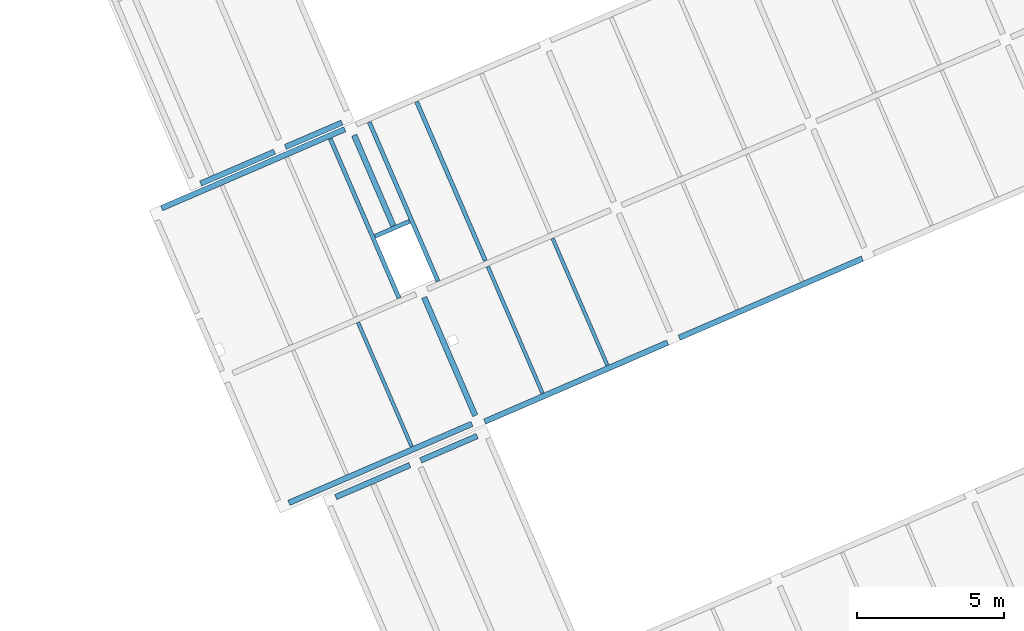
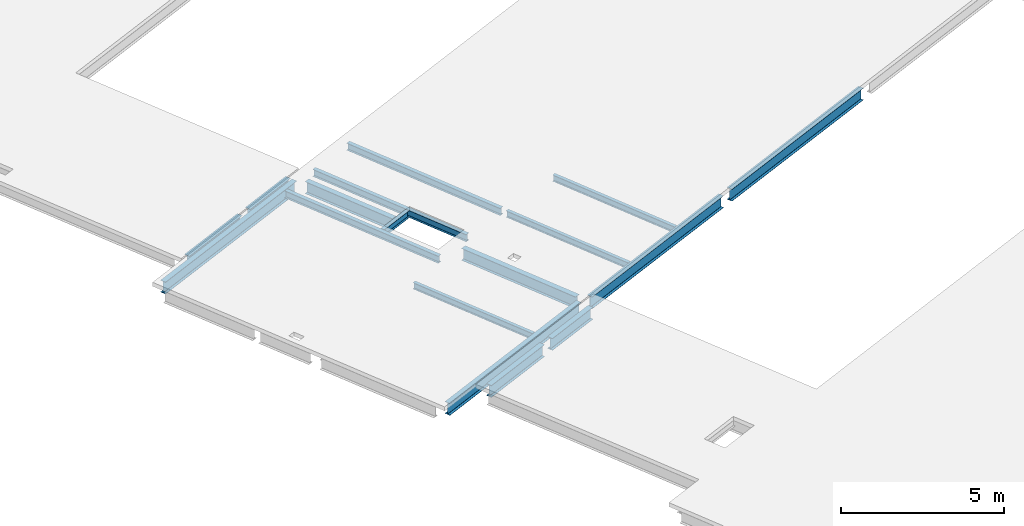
# One storey, part 3 of 15: 17 beams.
"""IFC4 building model written with IfcOpenShell, lengths in metres."""

import ifcopenshell
import ifcopenshell.guid

model = None  # the IFC model being written
_history = None  # IfcOwnerHistory: only IFC2X3 demands one
_inside = {}  # id of a spatial element -> (the spatial element, [elements in it])
_under = {}  # id of a project, library or spatial element -> (it, [spatial elements below it])
_declared = {}  # id of a project -> (the project, [libraries it declares])
_typed = {}  # id of a type object -> (the type object, [elements of that type])
_made_of = {}  # id of a material, layer set ... -> (it, [elements and type objects made of it])


def new_model(schema):
    """Start an empty IFC model of exactly this schema.

    Asked for "IFC4X3", IfcOpenShell would pick the latest addendum, in which some entities
    have other attributes; the version numbers below select the first issue.
    IFC2X3 requires an IfcOwnerHistory on every rooted entity: one is made here for all.
    """
    global model, _history
    if schema == "IFC4X3":
        model = ifcopenshell.file(schema_version=(4, 3, 0, 0))
    else:
        model = ifcopenshell.file(schema=schema)
    _inside.clear()
    _under.clear()
    _declared.clear()
    _typed.clear()
    _made_of.clear()
    _history = None
    if model.schema == "IFC2X3":
        org = make("IfcOrganization", Name="unknown")
        user = make(
            "IfcPersonAndOrganization",
            ThePerson=make("IfcPerson", FamilyName="unknown"),
            TheOrganization=org,
        )
        app = make(
            "IfcApplication",
            ApplicationDeveloper=org,
            Version="unknown",
            ApplicationFullName="unknown",
            ApplicationIdentifier="unknown",
        )
        _history = make(
            "IfcOwnerHistory",
            OwningUser=user,
            OwningApplication=app,
            ChangeAction="ADDED",
            CreationDate=0,
        )
    return model


def make(cls, **values):
    """One entity of the class cls with the attributes given. An attribute that is None is left unset."""
    return model.create_entity(
        cls, **{name: value for name, value in values.items() if value is not None}
    )


def entity(cls, *values):
    """Any entity or typed value of the class cls, its attributes in the order of the schema. None: left unset."""
    e = model.create_entity(cls)
    for i, value in enumerate(values):
        if value is not None:
            e[i] = value
    return e


def rooted(cls, **values):
    """An entity with a GlobalId (a new one), such as an element, a storey or a relation."""
    return make(cls, GlobalId=ifcopenshell.guid.new(), OwnerHistory=_history, **values)


def si_unit(unit_type, name, prefix=None):
    """IfcSIUnit, for example si_unit("LENGTHUNIT", "METRE", prefix="MILLI")."""
    return make("IfcSIUnit", UnitType=unit_type, Prefix=prefix, Name=name)


def converted_unit(unit_type, name, factor, base, dimensions=None, offset=None):
    """IfcConversionBasedUnit, such as the inch: factor (a typed value) times the base unit."""
    return make(
        "IfcConversionBasedUnit"
        if offset is None
        else "IfcConversionBasedUnitWithOffset",
        ConversionOffset=offset,
        Dimensions=None
        if dimensions is None
        else entity("IfcDimensionalExponents", *dimensions),
        UnitType=unit_type,
        Name=name,
        ConversionFactor=make(
            "IfcMeasureWithUnit", ValueComponent=factor, UnitComponent=base
        ),
    )


def derived_unit(unit_type, elements):
    """IfcDerivedUnit: a product of units, each with its exponent."""
    return make(
        "IfcDerivedUnit",
        Elements=[
            make("IfcDerivedUnitElement", Unit=unit, Exponent=power)
            for unit, power in elements
        ],
        UnitType=unit_type,
    )


def assignment(units):
    """IfcUnitAssignment: the units of a project."""
    return None if units is None else make("IfcUnitAssignment", Units=units)


def point(xyz):
    """IfcCartesianPoint."""
    return None if xyz is None else make("IfcCartesianPoint", Coordinates=xyz)


def direction(xyz):
    """IfcDirection."""
    return None if xyz is None else make("IfcDirection", DirectionRatios=xyz)


def frame(location, z_axis=None, x_axis=None):
    """IfcAxis2Placement3D, a coordinate frame: its origin and axes. An axis left out is left unset."""
    return make(
        "IfcAxis2Placement3D",
        Location=point(location),
        Axis=direction(z_axis),
        RefDirection=direction(x_axis),
    )


def origin():
    """The frame at (0, 0, 0) with its axes left unset."""
    return frame((0.0, 0.0, 0.0))


def place(relative_to, where):
    """IfcLocalPlacement: puts the frame where relative to a parent placement (None: the world)."""
    return make(
        "IfcLocalPlacement", PlacementRelTo=relative_to, RelativePlacement=where
    )


def context(
    kind, dimensions, precision=None, world=None, true_north=None, identifier=None
):
    """IfcGeometricRepresentationContext, for example the 3D "Model" context."""
    return make(
        "IfcGeometricRepresentationContext",
        ContextIdentifier=identifier,
        ContextType=kind,
        CoordinateSpaceDimension=dimensions,
        Precision=precision,
        WorldCoordinateSystem=world,
        TrueNorth=true_north,
    )


def subcontext(parent, identifier, kind, view, scale=None):
    """IfcGeometricRepresentationSubContext, for example "Body" below "Model"."""
    return make(
        "IfcGeometricRepresentationSubContext",
        ContextIdentifier=identifier,
        ContextType=kind,
        ParentContext=parent,
        TargetScale=scale,
        TargetView=view,
    )


def project(units=None, contexts=None):
    """IfcProject with its units and contexts."""
    return rooted(
        "IfcProject",
        Name="project",
        RepresentationContexts=contexts,
        UnitsInContext=assignment(units),
    )


def spatial(cls, under=None, at=None, **own):
    """A site, building, storey or space (cls), placed at a placement, below another one or the project."""
    s = rooted(cls, ObjectPlacement=at, **own)
    if under is not None:
        _under.setdefault(under.id(), (under, []))[1].append(s)
    return s


def point_list(points):
    """IfcCartesianPointList2D or 3D."""
    cls = (
        "IfcCartesianPointList2D" if len(points[0]) == 2 else "IfcCartesianPointList3D"
    )
    return make(cls, CoordList=points)


def line(*indices):
    """IfcLineIndex: a straight run through numbered points of an indexed curve."""
    return model.create_entity("IfcLineIndex", indices)


def arc(*indices):
    """IfcArcIndex: an arc through three numbered points of an indexed curve."""
    return model.create_entity("IfcArcIndex", indices)


def indexed_curve(points, segments=None, self_intersect=None):
    """IfcIndexedPolyCurve: lines and arcs through numbered points (the first is 1)."""
    return make(
        "IfcIndexedPolyCurve",
        Points=point_list(points),
        Segments=segments,
        SelfIntersect=self_intersect,
    )


def outline(outer, holes=None, kind="AREA"):
    """IfcArbitraryClosedProfileDef: a profile drawn as a closed curve; with holes, ...WithVoids."""
    if holes is None:
        return make("IfcArbitraryClosedProfileDef", ProfileType=kind, OuterCurve=outer)
    return make(
        "IfcArbitraryProfileDefWithVoids",
        ProfileType=kind,
        OuterCurve=outer,
        InnerCurves=holes,
    )


def extrude(swept, where, along, depth):
    """IfcExtrudedAreaSolid: the profile swept, set in the frame where, extruded along a direction by depth."""
    return make(
        "IfcExtrudedAreaSolid",
        SweptArea=swept,
        Position=where,
        ExtrudedDirection=direction(along),
        Depth=depth,
    )


def shape(context_of_items, identifier, shape_type, items):
    """IfcShapeRepresentation: the items that make up one representation, for example the "Body"."""
    return make(
        "IfcShapeRepresentation",
        ContextOfItems=context_of_items,
        RepresentationIdentifier=identifier,
        RepresentationType=shape_type,
        Items=items,
    )


def source(mapping_origin, context_of_items, identifier, shape_type, items):
    """IfcRepresentationMap: a shape defined once, which mapped items show again and again."""
    return make(
        "IfcRepresentationMap",
        MappingOrigin=mapping_origin,
        MappedRepresentation=shape(context_of_items, identifier, shape_type, items),
    )


def transform(
    local_origin,
    x_axis=None,
    y_axis=None,
    z_axis=None,
    scale=None,
    scale2=None,
    scale3=None,
    uniform=True,
):
    """IfcCartesianTransformationOperator3D, or its non-uniform kind. x_axis, y_axis, z_axis: its Axis1, 2, 3."""
    if uniform:
        return make(
            "IfcCartesianTransformationOperator3D",
            Axis1=direction(x_axis),
            Axis2=direction(y_axis),
            LocalOrigin=point(local_origin),
            Scale=scale,
            Axis3=direction(z_axis),
        )
    return make(
        "IfcCartesianTransformationOperator3DnonUniform",
        Axis1=direction(x_axis),
        Axis2=direction(y_axis),
        LocalOrigin=point(local_origin),
        Scale=scale,
        Axis3=direction(z_axis),
        Scale2=scale2,
        Scale3=scale3,
    )


def mapped(mapping_source, mapping_target):
    """IfcMappedItem: shows the shape of a source again, moved by a transform."""
    return make(
        "IfcMappedItem", MappingSource=mapping_source, MappingTarget=mapping_target
    )


def material(Name=None, Category=None):
    """IfcMaterial."""
    return make("IfcMaterial", Name=Name, Category=Category)


def made_of(thing, what):
    """Note that an element or type object is made of a material, layer set ...; save() writes the relation."""
    if what is not None:
        _made_of.setdefault(what.id(), (what, []))[1].append(thing)
    return thing


def type_object(cls, material=None, **own):
    """A type object (cls), such as IfcWallType, which elements share."""
    return made_of(rooted(cls, **own), material)


def type_shapes(of_type, sources):
    """Give a type object the sources (RepresentationMaps) that its elements show as mapped items."""
    of_type.RepresentationMaps = sources


def element(
    cls,
    number,
    at=None,
    inside=None,
    cuts=None,
    type_object=None,
    material=None,
    context=None,
    identifier="Body",
    shape_type=None,
    held_by="IfcProductDefinitionShape",
    body=None,
    shapes=None,
    **own,
):
    """One element of the class cls, such as IfcWall. Its Tag is "e" and its number.

    at: its placement. inside: the storey or other place that contains it. cuts: it is an
    opening in that element (IfcRelVoidsElement). A single representation is given by context,
    identifier, shape_type and body (its items); several are given by shapes. held_by: the class
    of the entity that holds the representations. save() writes the other relations.
    """
    e = rooted(cls, Tag="e%d" % number, ObjectPlacement=at, **own)
    if body is not None:
        shapes = [shape(context, identifier, shape_type, body)]
    if shapes is not None:
        e.Representation = make(held_by, Representations=shapes)
    if inside is not None:
        _inside.setdefault(inside.id(), (inside, []))[1].append(e)
    if cuts is not None:
        rooted(
            "IfcRelVoidsElement", RelatingBuildingElement=cuts, RelatedOpeningElement=e
        )
    if type_object is not None:
        _typed.setdefault(type_object.id(), (type_object, []))[1].append(e)
    return made_of(e, material)


def aggregate(whole, parts):
    """IfcRelAggregates: a whole, such as a stair, and the parts it consists of."""
    return rooted("IfcRelAggregates", RelatingObject=whole, RelatedObjects=parts)


def save(model, path):
    """Write the relations noted so far, then the file.

    IfcRelAggregates (storeys below a building ...), IfcRelContainedInSpatialStructure (elements
    in a storey), IfcRelDefinesByType, IfcRelAssociatesMaterial and IfcRelDeclares: one each for
    every whole, place, type object, material and project.
    """
    for whole, parts in _under.values():
        aggregate(whole, parts)
    for where, things in _inside.values():
        rooted(
            "IfcRelContainedInSpatialStructure",
            RelatedElements=things,
            RelatingStructure=where,
        )
    for kind, things in _typed.values():
        rooted("IfcRelDefinesByType", RelatedObjects=things, RelatingType=kind)
    for what, things in _made_of.values():
        rooted("IfcRelAssociatesMaterial", RelatedObjects=things, RelatingMaterial=what)
    for by, libraries in _declared.values():
        rooted("IfcRelDeclares", RelatingContext=by, RelatedDefinitions=libraries)
    model.write(path)


model = new_model("IFC4")

# Units and contexts
model_context = context("Model", 3, precision=1e-05, world=origin(), true_north=direction((6.12323399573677e-17, 1.0)))
body_context = subcontext(model_context, "Body", "Model", "MODEL_VIEW")
ifc_project = project(units=[si_unit("LENGTHUNIT", "METRE"), si_unit("AREAUNIT", "SQUARE_METRE"), si_unit("VOLUMEUNIT", "CUBIC_METRE"), converted_unit("PLANEANGLEUNIT", "DEGREE", entity("IfcPlaneAngleMeasure", 0.0174532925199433), si_unit("PLANEANGLEUNIT", "RADIAN"), dimensions=[0, 0, 0, 0, 0, 0, 0]), si_unit("MASSUNIT", "GRAM", prefix="KILO"), derived_unit("MOMENTOFINERTIAUNIT", [(si_unit("LENGTHUNIT", "METRE"), 4)]), derived_unit("LINEARFORCEUNIT", [(si_unit("MASSUNIT", "GRAM", prefix="KILO"), 1), (si_unit("TIMEUNIT", "SECOND"), -2)]), derived_unit("WARPINGCONSTANTUNIT", [(si_unit("LENGTHUNIT", "METRE"), 6)]), derived_unit("THERMALTRANSMITTANCEUNIT", [(si_unit("MASSUNIT", "GRAM", prefix="KILO"), 1), (si_unit("THERMODYNAMICTEMPERATUREUNIT", "KELVIN"), -1), (si_unit("TIMEUNIT", "SECOND"), -3)]), derived_unit("USERDEFINED", [(si_unit("MASSUNIT", "GRAM", prefix="KILO"), 1), (si_unit("TIMEUNIT", "SECOND"), -2), (si_unit("THERMODYNAMICTEMPERATUREUNIT", "KELVIN"), -1)]), derived_unit("THERMALRESISTANCEUNIT", [(si_unit("MASSUNIT", "GRAM", prefix="KILO"), -1), (si_unit("TIMEUNIT", "SECOND"), 3), (si_unit("THERMODYNAMICTEMPERATUREUNIT", "KELVIN"), 1)])], contexts=[model_context])

# Site, building, storey
site_placement = place(None, origin())
site = spatial("IfcSite", under=ifc_project, at=site_placement, Name="Default", CompositionType="ELEMENT")
building_placement = place(site_placement, frame((12.6613425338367, -82.5732315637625, 317.15), z_axis=(0.0, 0.0, 1.0), x_axis=(-0.396377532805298, 0.918087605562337, 0.0)))
building = spatial("IfcBuilding", under=site, at=building_placement, Name="CESFAM Coyhaique", CompositionType="ELEMENT")
storey_placement = place(building_placement, frame((0.0, 0.0, 8.45000000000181)))
storey = spatial("IfcBuildingStorey", under=building, at=storey_placement, Name="Nivel 3", CompositionType="ELEMENT", Elevation=8.45000000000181)

# Beams
ifc_material = material(Name="Steel, 45-345", Category="Metal")
beam_type_1 = type_object("IfcBeamType", Name="M_W Shapes:W450X190mm", PredefinedType="BEAM", material=ifc_material)
shared_shape_1 = source(origin(), body_context, "Body", "SweptSolid", [
    extrude(outline(indexed_curve([(-0.0949999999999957, -0.225000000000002), (0.0950000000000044, -0.225000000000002), (0.0950000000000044, -0.215350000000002), (0.0105700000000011, -0.215350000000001), (0.00516063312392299, -0.21310936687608), (0.0029200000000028, -0.207700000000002), (0.0029200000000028, 0.207699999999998), (0.00516063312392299, 0.213109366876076), (0.0105700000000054, 0.215349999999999), (0.0950000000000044, 0.215349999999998), (0.0950000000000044, 0.224999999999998), (-0.0949999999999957, 0.224999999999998), (-0.0949999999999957, 0.215349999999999), (-0.0105699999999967, 0.215349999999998), (-0.00516063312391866, 0.213109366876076), (-0.00291999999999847, 0.207699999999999), (-0.00291999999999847, -0.207700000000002), (-0.00516063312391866, -0.21310936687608), (-0.0105699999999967, -0.215350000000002), (-0.0949999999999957, -0.215350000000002)], segments=[line(1, 2, 3, 4), arc(4, 5, 6), line(6, 7), arc(7, 8, 9), line(9, 10, 11, 12, 13, 14), arc(14, 15, 16), line(16, 17), arc(17, 18, 19), line(19, 20, 1)], self_intersect=False)), frame((23.8688534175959, 3.0155504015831, 8.07500000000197), z_axis=(0.0, 1.0, 0.0), x_axis=(-1.0, 0.0, 0.0)), (0.0, 0.0, 1.0), 6.7746),
])
type_shapes(beam_type_1, [shared_shape_1])
beam_1_placement = place(storey_placement, frame((0.0, 0.0, -8.45000000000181)))
element("IfcBeam", 1, at=beam_1_placement, inside=storey, type_object=beam_type_1, Name="M_W Shapes:W450X190mm", ObjectType="M_W Shapes:W450X190mm", PredefinedType="BEAM", context=body_context, shape_type="MappedRepresentation", body=[
    mapped(shared_shape_1, transform((0.0, 0.0, 0.0), scale=1.0)),
])
beam_type_2 = type_object("IfcBeamType", Name="M_W Shapes:W450X190mm", PredefinedType="BEAM", material=ifc_material)
shared_shape_2 = source(origin(), body_context, "Body", "SweptSolid", [
    extrude(outline(indexed_curve([(-0.224999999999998, -0.0950000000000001), (-0.215349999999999, -0.0949999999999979), (-0.215349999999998, -0.0105699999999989), (-0.213109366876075, -0.00516063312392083), (-0.207699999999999, -0.00291999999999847), (0.207700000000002, -0.00291999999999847), (0.213109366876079, -0.00516063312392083), (0.215350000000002, -0.0105699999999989), (0.215350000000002, -0.0950000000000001), (0.225000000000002, -0.0950000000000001), (0.225000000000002, 0.0950000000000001), (0.215350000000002, 0.0950000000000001), (0.215350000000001, 0.0105700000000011), (0.213109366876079, 0.00516063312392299), (0.207700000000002, 0.00292000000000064), (-0.207699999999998, 0.00292000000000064), (-0.213109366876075, 0.00516063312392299), (-0.215349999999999, 0.0105700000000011), (-0.215349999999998, 0.0950000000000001), (-0.224999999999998, 0.0950000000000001)], segments=[line(1, 2, 3), arc(3, 4, 5), line(5, 6), arc(6, 7, 8), line(8, 9, 10, 11, 12, 13), arc(13, 14, 15), line(15, 16), arc(16, 17, 18), line(18, 19, 20, 1)], self_intersect=False)), frame((24.1815534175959, 10.0028504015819, 8.07500000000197), z_axis=(1.0, 0.0, 0.0), x_axis=(0.0, 0.0, -1.0)), (0.0, 0.0, 1.0), 4.3746),
])
type_shapes(beam_type_2, [shared_shape_2])
beam_2_placement = place(storey_placement, frame((0.0, 0.0, -8.45000000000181)))
element("IfcBeam", 2, at=beam_2_placement, inside=storey, type_object=beam_type_2, Name="M_W Shapes:W450X190mm", ObjectType="M_W Shapes:W450X190mm", PredefinedType="BEAM", context=body_context, shape_type="MappedRepresentation", body=[
    mapped(shared_shape_2, transform((0.0, 0.0, 0.0), scale=1.0)),
])
beam_type_3 = type_object("IfcBeamType", Name="M_W Shapes:W450X190mm", PredefinedType="BEAM", material=ifc_material)
shared_shape_3 = source(origin(), body_context, "Body", "SweptSolid", [
    extrude(outline(indexed_curve([(-0.0950000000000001, -0.225000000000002), (0.0950000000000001, -0.225000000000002), (0.0950000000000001, -0.215350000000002), (0.0105699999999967, -0.215350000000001), (0.00516063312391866, -0.21310936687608), (0.00291999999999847, -0.207700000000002), (0.00291999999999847, 0.207699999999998), (0.00516063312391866, 0.213109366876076), (0.0105700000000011, 0.215349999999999), (0.0950000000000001, 0.215349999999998), (0.0950000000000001, 0.224999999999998), (-0.0950000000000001, 0.224999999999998), (-0.0950000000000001, 0.215349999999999), (-0.0105700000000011, 0.215349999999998), (-0.00516063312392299, 0.213109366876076), (-0.0029200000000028, 0.207699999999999), (-0.0029200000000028, -0.207700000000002), (-0.00516063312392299, -0.21310936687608), (-0.0105700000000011, -0.215350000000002), (-0.0950000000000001, -0.215350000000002)], segments=[line(1, 2, 3, 4), arc(4, 5, 6), line(6, 7), arc(7, 8, 9), line(9, 10, 11, 12, 13, 14), arc(14, 15, 16), line(16, 17), arc(17, 18, 19), line(19, 20, 1)], self_intersect=False)), frame((23.8638534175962, -4.18444959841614, 8.07500000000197), z_axis=(0.0, 1.0, 0.0), x_axis=(-1.0, 0.0, 0.0)), (0.0, 0.0, 1.0), 6.7746),
])
type_shapes(beam_type_3, [shared_shape_3])
beam_3_placement = place(storey_placement, frame((0.0, 0.0, -8.45000000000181)))
element("IfcBeam", 3, at=beam_3_placement, inside=storey, type_object=beam_type_3, Name="M_W Shapes:W450X190mm", ObjectType="M_W Shapes:W450X190mm", PredefinedType="BEAM", context=body_context, shape_type="MappedRepresentation", body=[
    mapped(shared_shape_3, transform((0.0, 0.0, 0.0), scale=1.0)),
])
beam_type_4 = type_object("IfcBeamType", Name="M_W Shapes:W450X190mm", PredefinedType="BEAM", material=ifc_material)
shared_shape_4 = source(origin(), body_context, "Body", "SweptSolid", [
    extrude(outline(indexed_curve([(-0.224999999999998, -0.0950000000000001), (-0.215349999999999, -0.0950000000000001), (-0.215349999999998, -0.0105699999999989), (-0.213109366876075, -0.00516063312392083), (-0.207699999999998, -0.00291999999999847), (0.207700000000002, -0.00291999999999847), (0.213109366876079, -0.00516063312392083), (0.215350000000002, -0.0105699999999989), (0.215350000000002, -0.0950000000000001), (0.225000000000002, -0.0950000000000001), (0.225000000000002, 0.0950000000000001), (0.215350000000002, 0.0950000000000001), (0.215350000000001, 0.0105700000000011), (0.213109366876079, 0.00516063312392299), (0.207700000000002, 0.00292000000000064), (-0.207699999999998, 0.00292000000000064), (-0.213109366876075, 0.00516063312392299), (-0.215349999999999, 0.0105700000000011), (-0.215349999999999, 0.0950000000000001), (-0.224999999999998, 0.0950000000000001)], segments=[line(1, 2, 3), arc(3, 4, 5), line(5, 6), arc(6, 7, 8), line(8, 9, 10, 11, 12, 13), arc(13, 14, 15), line(15, 16), arc(16, 17, 18), line(18, 19, 20, 1)], self_intersect=False)), frame((31.2086251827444, 10.0028504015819, 8.07500000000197), z_axis=(1.0, 0.0, 0.0), x_axis=(0.0, 0.0, -1.0)), (0.0, 0.0, 1.0), 3.3475),
])
type_shapes(beam_type_4, [shared_shape_4])
beam_4_placement = place(storey_placement, frame((0.0, 0.0, -8.45000000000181)))
element("IfcBeam", 4, at=beam_4_placement, inside=storey, type_object=beam_type_4, Name="M_W Shapes:W450X190mm", ObjectType="M_W Shapes:W450X190mm", PredefinedType="BEAM", context=body_context, shape_type="MappedRepresentation", body=[
    mapped(shared_shape_4, transform((0.0, 0.0, 0.0), scale=1.0)),
])
beam_type_5 = type_object("IfcBeamType", Name="M_W Shapes:W450X190mm", PredefinedType="BEAM", material=ifc_material)
shared_shape_5 = source(origin(), body_context, "Body", "SweptSolid", [
    extrude(outline(indexed_curve([(-0.0950000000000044, -0.225000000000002), (0.0949999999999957, -0.225000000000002), (0.0949999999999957, -0.215350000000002), (0.0105699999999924, -0.215350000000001), (0.00516063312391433, -0.21310936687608), (0.00291999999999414, -0.207700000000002), (0.00291999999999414, 0.207699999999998), (0.00516063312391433, 0.213109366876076), (0.0105699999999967, 0.215349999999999), (0.0949999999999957, 0.215349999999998), (0.0949999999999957, 0.224999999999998), (-0.0950000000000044, 0.224999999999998), (-0.0950000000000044, 0.215349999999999), (-0.0105700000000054, 0.215349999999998), (-0.00516063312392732, 0.213109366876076), (-0.00292000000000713, 0.207699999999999), (-0.00292000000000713, -0.207700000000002), (-0.00516063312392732, -0.21310936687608), (-0.0105700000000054, -0.215350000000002), (-0.0950000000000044, -0.215350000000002)], segments=[line(1, 2, 3, 4), arc(4, 5, 6), line(6, 7), arc(7, 8, 9), line(9, 10, 11, 12, 13, 14), arc(14, 15, 16), line(16, 17), arc(17, 18, 19), line(19, 20, 1)], self_intersect=False)), frame((23.9688534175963, 10.2155504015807, 8.07500000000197), z_axis=(0.0, 1.0, 0.0), x_axis=(-1.0, 0.0, 0.0)), (0.0, 0.0, 1.0), 6.7746),
])
type_shapes(beam_type_5, [shared_shape_5])
beam_5_placement = place(storey_placement, frame((0.0, 0.0, -8.45000000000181)))
element("IfcBeam", 5, at=beam_5_placement, inside=storey, type_object=beam_type_5, Name="M_W Shapes:W450X190mm", ObjectType="M_W Shapes:W450X190mm", PredefinedType="BEAM", context=body_context, shape_type="MappedRepresentation", body=[
    mapped(shared_shape_5, transform((0.0, 0.0, 0.0), scale=1.0)),
])
beam_type_6 = type_object("IfcBeamType", Name="M_W Shapes:W450X190mm", PredefinedType="BEAM", material=ifc_material)
shared_shape_6 = source(origin(), body_context, "Body", "SweptSolid", [
    extrude(outline(indexed_curve([(-0.0950000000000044, -0.225000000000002), (0.0949999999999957, -0.225000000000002), (0.0949999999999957, -0.215350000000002), (0.0105699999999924, -0.215350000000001), (0.00516063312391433, -0.21310936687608), (0.00291999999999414, -0.207700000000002), (0.00291999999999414, 0.207699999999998), (0.00516063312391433, 0.213109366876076), (0.0105699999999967, 0.215349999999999), (0.0949999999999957, 0.215349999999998), (0.0949999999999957, 0.224999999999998), (-0.0950000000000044, 0.224999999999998), (-0.0950000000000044, 0.215349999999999), (-0.0105700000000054, 0.215349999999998), (-0.00516063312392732, 0.213109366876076), (-0.00292000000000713, 0.207699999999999), (-0.00292000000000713, -0.207700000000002), (-0.00516063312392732, -0.21310936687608), (-0.0105700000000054, -0.215350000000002), (-0.0950000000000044, -0.215350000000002)], segments=[line(1, 2, 3, 4), arc(4, 5, 6), line(6, 7), arc(7, 8, 9), line(9, 10, 11, 12, 13, 14), arc(14, 15, 16), line(16, 17), arc(17, 18, 19), line(19, 20, 1)], self_intersect=False)), frame((34.8738534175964, 10.2155504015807, 8.07500000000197), z_axis=(0.0, 1.0, 0.0), x_axis=(-1.0, 0.0, 0.0)), (0.0, 0.0, 1.0), 6.7746),
])
type_shapes(beam_type_6, [shared_shape_6])
beam_6_placement = place(storey_placement, frame((0.0, 0.0, -8.45000000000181)))
element("IfcBeam", 6, at=beam_6_placement, inside=storey, type_object=beam_type_6, Name="M_W Shapes:W450X190mm", ObjectType="M_W Shapes:W450X190mm", PredefinedType="BEAM", context=body_context, shape_type="MappedRepresentation", body=[
    mapped(shared_shape_6, transform((0.0, 0.0, 0.0), scale=1.0)),
])
beam_type_7 = type_object("IfcBeamType", Name="M_W Shapes:W450X190mm", PredefinedType="BEAM", material=ifc_material)
shared_shape_7 = source(origin(), body_context, "Body", "SweptSolid", [
    extrude(outline(indexed_curve([(-0.0950000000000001, -0.225000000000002), (0.0950000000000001, -0.225000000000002), (0.0950000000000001, -0.215350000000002), (0.0105699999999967, -0.215350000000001), (0.00516063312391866, -0.21310936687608), (0.00291999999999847, -0.207700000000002), (0.00291999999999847, 0.207699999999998), (0.00516063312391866, 0.213109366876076), (0.0105699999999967, 0.215349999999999), (0.0950000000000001, 0.215349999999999), (0.0950000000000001, 0.224999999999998), (-0.0950000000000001, 0.224999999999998), (-0.0950000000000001, 0.215349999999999), (-0.0105700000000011, 0.215349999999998), (-0.00516063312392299, 0.213109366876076), (-0.0029200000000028, 0.207699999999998), (-0.0029200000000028, -0.207700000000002), (-0.00516063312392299, -0.21310936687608), (-0.0105700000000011, -0.215350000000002), (-0.0950000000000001, -0.215350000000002)], segments=[line(1, 2, 3, 4), arc(4, 5, 6), line(6, 7), arc(7, 8, 9), line(9, 10, 11, 12, 13, 14), arc(14, 15, 16), line(16, 17), arc(17, 18, 19), line(19, 20, 1)], self_intersect=False)), frame((23.5188534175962, 10.2155531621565, 8.07500000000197), z_axis=(0.0, 1.0, 0.0), x_axis=(-1.0, 0.0, 0.0)), (0.0, 0.0, 1.0), 2.0923),
])
type_shapes(beam_type_7, [shared_shape_7])
beam_7_placement = place(storey_placement, frame((0.0, 0.0, -8.45000000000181)))
element("IfcBeam", 7, at=beam_7_placement, inside=storey, type_object=beam_type_7, Name="M_W Shapes:W450X190mm", ObjectType="M_W Shapes:W450X190mm", PredefinedType="BEAM", context=body_context, shape_type="MappedRepresentation", body=[
    mapped(shared_shape_7, transform((0.0, 0.0, 0.0), scale=1.0)),
])
beam_type_8 = type_object("IfcBeamType", Name="M_W Shapes:W450X190mm", PredefinedType="BEAM", material=ifc_material)
shared_shape_8 = source(origin(), body_context, "Body", "SweptSolid", [
    extrude(outline(indexed_curve([(-0.0950000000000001, -0.225000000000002), (0.0950000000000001, -0.225000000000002), (0.0950000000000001, -0.215350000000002), (0.0105699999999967, -0.215350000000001), (0.00516063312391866, -0.21310936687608), (0.00291999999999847, -0.207700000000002), (0.00291999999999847, 0.207699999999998), (0.00516063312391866, 0.213109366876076), (0.0105699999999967, 0.215349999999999), (0.0950000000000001, 0.215349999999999), (0.0950000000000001, 0.224999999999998), (-0.0950000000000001, 0.224999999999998), (-0.0950000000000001, 0.215349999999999), (-0.0105700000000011, 0.215349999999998), (-0.00516063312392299, 0.213109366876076), (-0.0029200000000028, 0.207699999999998), (-0.0029200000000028, -0.207700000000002), (-0.00516063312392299, -0.21310936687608), (-0.0105700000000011, -0.215350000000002), (-0.0950000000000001, -0.215350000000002)], segments=[line(1, 2, 3, 4), arc(4, 5, 6), line(6, 7), arc(7, 8, 9), line(9, 10, 11, 12, 13, 14), arc(14, 15, 16), line(16, 17), arc(17, 18, 19), line(19, 20, 1)], self_intersect=False)), frame((35.1138534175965, 10.2155511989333, 8.07500000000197), z_axis=(0.0, 1.0, 0.0), x_axis=(-1.0, 0.0, 0.0)), (0.0, 0.0, 1.0), 2.0923),
])
type_shapes(beam_type_8, [shared_shape_8])
beam_8_placement = place(storey_placement, frame((0.0, 0.0, -8.45000000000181)))
element("IfcBeam", 8, at=beam_8_placement, inside=storey, type_object=beam_type_8, Name="M_W Shapes:W450X190mm", ObjectType="M_W Shapes:W450X190mm", PredefinedType="BEAM", context=body_context, shape_type="MappedRepresentation", body=[
    mapped(shared_shape_8, transform((0.0, 0.0, 0.0), scale=1.0)),
])
beam_type_9 = type_object("IfcBeamType", Name="M_W Shapes:W270X140mm", PredefinedType="BEAM", material=ifc_material)
shared_shape_9 = source(origin(), body_context, "Body", "SweptSolid", [
    extrude(outline(indexed_curve([(-0.135000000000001, -0.0700000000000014), (-0.125350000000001, -0.0700000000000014), (-0.12535, -0.0105700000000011), (-0.123109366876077, -0.00516063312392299), (-0.117700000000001, -0.00292000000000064), (0.117699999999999, -0.00292000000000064), (0.123109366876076, -0.00516063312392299), (0.12535, -0.0105700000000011), (0.12535, -0.0700000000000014), (0.135, -0.0700000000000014), (0.135, 0.0699999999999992), (0.12535, 0.0699999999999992), (0.125349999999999, 0.0105699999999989), (0.123109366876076, 0.00516063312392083), (0.117699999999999, 0.00291999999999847), (-0.1177, 0.00291999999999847), (-0.123109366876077, 0.00516063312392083), (-0.125350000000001, 0.0105699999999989), (-0.125350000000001, 0.0699999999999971), (-0.135, 0.0699999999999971)], segments=[line(1, 2, 3), arc(3, 4, 5), line(5, 6), arc(6, 7, 8), line(8, 9, 10, 11, 12, 13), arc(13, 14, 15), line(15, 16), arc(16, 17, 18), line(18, 19, 20, 1)], self_intersect=False)), frame((28.8765534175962, 10.7957688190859, 8.16500000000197), z_axis=(1.0, 0.0, 0.0), x_axis=(0.0, 0.0, -1.0)), (0.0, 0.0, 1.0), 5.8896),
])
type_shapes(beam_type_9, [shared_shape_9])
beam_9_placement = place(storey_placement, frame((0.0, 0.0, -8.45000000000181)))
element("IfcBeam", 9, at=beam_9_placement, inside=storey, type_object=beam_type_9, Name="M_W Shapes:W270X140mm", ObjectType="M_W Shapes:W270X140mm", PredefinedType="BEAM", context=body_context, shape_type="MappedRepresentation", body=[
    mapped(shared_shape_9, transform((0.0, 0.0, 0.0), scale=1.0)),
])
beam_type_10 = type_object("IfcBeamType", Name="M_W Shapes:W270X140mm", PredefinedType="BEAM", material=ifc_material)
shared_shape_10 = source(origin(), body_context, "Body", "SweptSolid", [
    extrude(outline(indexed_curve([(-0.135, -0.0700000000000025), (-0.125350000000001, -0.0700000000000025), (-0.125350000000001, -0.0105700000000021), (-0.123109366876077, -0.00516063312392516), (-0.1177, -0.0029200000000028), (0.117699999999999, -0.00292000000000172), (0.123109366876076, -0.00516063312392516), (0.12535, -0.0105700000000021), (0.12535, -0.0700000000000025), (0.135, -0.0700000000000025), (0.135, 0.0699999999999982), (0.12535, 0.0699999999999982), (0.12535, 0.0105699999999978), (0.123109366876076, 0.00516063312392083), (0.117699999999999, 0.00291999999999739), (-0.1177, 0.00291999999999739), (-0.123109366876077, 0.00516063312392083), (-0.125350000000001, 0.0105699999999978), (-0.125350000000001, 0.0699999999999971), (-0.135, 0.0699999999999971)], segments=[line(1, 2, 3), arc(3, 4, 5), line(5, 6), arc(6, 7, 8), line(8, 9, 10, 11, 12, 13), arc(13, 14, 15), line(15, 16), arc(16, 17, 18), line(18, 19, 20, 1)], self_intersect=False)), frame((28.876553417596, 9.35576881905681, 8.16500000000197), z_axis=(1.0, 0.0, 0.0), x_axis=(0.0, 0.0, -1.0)), (0.0, 0.0, 1.0), 5.8846),
])
type_shapes(beam_type_10, [shared_shape_10])
beam_10_placement = place(storey_placement, frame((0.0, 0.0, -8.45000000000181)))
element("IfcBeam", 10, at=beam_10_placement, inside=storey, type_object=beam_type_10, Name="M_W Shapes:W270X140mm", ObjectType="M_W Shapes:W270X140mm", PredefinedType="BEAM", context=body_context, shape_type="MappedRepresentation", body=[
    mapped(shared_shape_10, transform((0.0, 0.0, 0.0), scale=1.0)),
])
beam_type_11 = type_object("IfcBeamType", Name="M_W Shapes:W270X140mm", PredefinedType="BEAM", material=ifc_material)
shared_shape_11 = source(origin(), body_context, "Body", "SweptSolid", [
    extrude(outline(indexed_curve([(-0.0700000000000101, -0.135000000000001), (0.0699999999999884, -0.135000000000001), (0.0699999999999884, -0.125350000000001), (0.0105699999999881, -0.12535), (0.00516063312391, -0.123109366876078), (0.00291999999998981, -0.1177), (0.00291999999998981, 0.117699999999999), (0.00516063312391, 0.123109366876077), (0.0105699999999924, 0.12535), (0.0699999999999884, 0.12535), (0.0699999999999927, 0.134999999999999), (-0.0700000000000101, 0.135), (-0.0700000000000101, 0.12535), (-0.0105700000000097, 0.125349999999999), (-0.00516063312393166, 0.123109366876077), (-0.00292000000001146, 0.1177), (-0.00292000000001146, -0.1177), (-0.00516063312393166, -0.123109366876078), (-0.0105700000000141, -0.125350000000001), (-0.0700000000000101, -0.125350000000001)], segments=[line(1, 2, 3, 4), arc(4, 5, 6), line(6, 7), arc(7, 8, 9), line(9, 10, 11, 12, 13, 14), arc(14, 15, 16), line(16, 17), arc(17, 18, 19), line(19, 20, 1)], self_intersect=False)), frame((31.1258969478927, 9.43846881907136, 8.16500000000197), z_axis=(0.0, 1.0, 0.0), x_axis=(-1.0, 0.0, 0.0)), (0.0, 0.0, 1.0), 1.2746),
])
type_shapes(beam_type_11, [shared_shape_11])
beam_11_placement = place(storey_placement, frame((0.0, 0.0, -8.45000000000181)))
element("IfcBeam", 11, at=beam_11_placement, inside=storey, type_object=beam_type_11, Name="M_W Shapes:W270X140mm", ObjectType="M_W Shapes:W270X140mm", PredefinedType="BEAM", context=body_context, shape_type="MappedRepresentation", body=[
    mapped(shared_shape_11, transform((0.0, 0.0, 0.0), scale=1.0)),
])
beam_type_12 = type_object("IfcBeamType", Name="M_W Shapes:W450X190mm", PredefinedType="BEAM", material=ifc_material)
shared_shape_12 = source(origin(), body_context, "Body", "SweptSolid", [
    extrude(outline(indexed_curve([(-0.0950000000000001, -0.225000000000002), (0.0950000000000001, -0.225000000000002), (0.0950000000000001, -0.215350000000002), (0.0105699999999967, -0.215350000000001), (0.00516063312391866, -0.21310936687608), (0.00291999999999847, -0.207700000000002), (0.00291999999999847, 0.207699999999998), (0.00516063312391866, 0.213109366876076), (0.0105699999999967, 0.215349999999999), (0.0950000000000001, 0.215349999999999), (0.0950000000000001, 0.224999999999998), (-0.0950000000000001, 0.224999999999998), (-0.0950000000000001, 0.215349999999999), (-0.0105700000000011, 0.215349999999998), (-0.00516063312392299, 0.213109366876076), (-0.0029200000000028, 0.207699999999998), (-0.0029200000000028, -0.207700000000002), (-0.00516063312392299, -0.21310936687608), (-0.0105700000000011, -0.215350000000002), (-0.0950000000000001, -0.215350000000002)], segments=[line(1, 2, 3, 4), arc(4, 5, 6), line(6, 7), arc(7, 8, 9), line(9, 10, 11, 12, 13, 14), arc(14, 15, 16), line(16, 17), arc(17, 18, 19), line(19, 20, 1)], self_intersect=False)), frame((23.5188534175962, 12.707903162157, 8.07500000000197), z_axis=(0.0, 1.0, 0.0), x_axis=(-1.0, 0.0, 0.0)), (0.0, 0.0, 1.0), 2.7449),
])
type_shapes(beam_type_12, [shared_shape_12])
beam_12_placement = place(storey_placement, frame((0.0, 0.0, -8.45000000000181)))
element("IfcBeam", 12, at=beam_12_placement, inside=storey, type_object=beam_type_12, Name="M_W Shapes:W450X190mm", ObjectType="M_W Shapes:W450X190mm", PredefinedType="BEAM", context=body_context, shape_type="MappedRepresentation", body=[
    mapped(shared_shape_12, transform((0.0, 0.0, 0.0), scale=1.0)),
])
beam_type_13 = type_object("IfcBeamType", Name="M_W Shapes:W240X120mm", PredefinedType="BEAM", material=ifc_material)
shared_shape_13 = source(origin(), body_context, "Body", "SweptSolid", [
    extrude(outline(indexed_curve([(-0.119999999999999, -0.0599999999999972), (-0.11035, -0.0599999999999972), (-0.110349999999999, -0.0105699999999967), (-0.108109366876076, -0.00516063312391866), (-0.102699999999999, -0.0029199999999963), (0.1027, -0.0029199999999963), (0.108109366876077, -0.00516063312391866), (0.11035, -0.0105699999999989), (0.110350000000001, -0.0599999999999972), (0.120000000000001, -0.0599999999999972), (0.120000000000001, 0.0600000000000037), (0.11035, 0.0600000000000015), (0.11035, 0.0105700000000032), (0.108109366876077, 0.00516063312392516), (0.102699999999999, 0.0029200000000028), (-0.102699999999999, 0.0029200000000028), (-0.108109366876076, 0.00516063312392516), (-0.11035, 0.0105700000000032), (-0.110349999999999, 0.0600000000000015), (-0.119999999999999, 0.0600000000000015)], segments=[line(1, 2, 3), arc(3, 4, 5), line(5, 6), arc(6, 7, 8), line(8, 9, 10, 11, 12, 13), arc(13, 14, 15), line(15, 16), arc(16, 17, 18), line(18, 19, 20, 1)], self_intersect=False)), frame((24.0765534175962, 12.4027298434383, 8.18000000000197), z_axis=(1.0, 0.0, 0.0), x_axis=(0.0, 0.0, -1.0)), (0.0, 0.0, 1.0), 4.5846),
])
type_shapes(beam_type_13, [shared_shape_13])
beam_13_placement = place(storey_placement, frame((0.0, 0.0, -8.45000000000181)))
element("IfcBeam", 13, at=beam_13_placement, inside=storey, type_object=beam_type_13, Name="M_W Shapes:W240X120mm", ObjectType="M_W Shapes:W240X120mm", PredefinedType="BEAM", context=body_context, shape_type="MappedRepresentation", body=[
    mapped(shared_shape_13, transform((0.0, 0.0, 0.0), scale=1.0)),
])
beam_type_14 = type_object("IfcBeamType", Name="M_W Shapes:W270X140mm", PredefinedType="BEAM", material=ifc_material)
shared_shape_14 = source(origin(), body_context, "Body", "SweptSolid", [
    extrude(outline(indexed_curve([(-0.135, -0.0699999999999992), (-0.125350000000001, -0.0699999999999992), (-0.125350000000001, -0.0105699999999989), (-0.123109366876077, -0.00516063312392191), (-0.1177, -0.00291999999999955), (0.117699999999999, -0.00291999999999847), (0.123109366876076, -0.00516063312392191), (0.12535, -0.0105699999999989), (0.12535, -0.0699999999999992), (0.135, -0.0699999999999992), (0.135, 0.0700000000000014), (0.12535, 0.0700000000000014), (0.12535, 0.0105700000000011), (0.123109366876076, 0.00516063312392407), (0.117699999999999, 0.00292000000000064), (-0.1177, 0.00292000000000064), (-0.123109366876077, 0.00516063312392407), (-0.125350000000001, 0.0105700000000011), (-0.125350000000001, 0.0700000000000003), (-0.135, 0.0700000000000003)], segments=[line(1, 2, 3), arc(3, 4, 5), line(5, 6), arc(6, 7, 8), line(8, 9, 10, 11, 12, 13), arc(13, 14, 15), line(15, 16), arc(16, 17, 18), line(18, 19, 20, 1)], self_intersect=False)), frame((28.876553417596, 7.60272984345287, 8.16500000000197), z_axis=(1.0, 0.0, 0.0), x_axis=(0.0, 0.0, -1.0)), (0.0, 0.0, 1.0), 5.8846),
])
type_shapes(beam_type_14, [shared_shape_14])
beam_14_placement = place(storey_placement, frame((0.0, 0.0, -8.45000000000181)))
element("IfcBeam", 14, at=beam_14_placement, inside=storey, type_object=beam_type_14, Name="M_W Shapes:W270X140mm", ObjectType="M_W Shapes:W270X140mm", PredefinedType="BEAM", context=body_context, shape_type="MappedRepresentation", body=[
    mapped(shared_shape_14, transform((0.0, 0.0, 0.0), scale=1.0)),
])
beam_type_15 = type_object("IfcBeamType", Name="M_W Shapes:W240X120mm", PredefinedType="BEAM", material=ifc_material)
shared_shape_15 = source(origin(), body_context, "Body", "SweptSolid", [
    extrude(outline(indexed_curve([(-0.12, -0.0600000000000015), (-0.110350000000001, -0.0600000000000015), (-0.110350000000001, -0.0105700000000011), (-0.108109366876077, -0.00516063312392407), (-0.1027, -0.00292000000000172), (0.102699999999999, -0.00292000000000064), (0.108109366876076, -0.00516063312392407), (0.110349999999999, -0.0105700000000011), (0.110349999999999, -0.0600000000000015), (0.12, -0.0600000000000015), (0.12, 0.0599999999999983), (0.110349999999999, 0.0599999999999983), (0.11035, 0.0105699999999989), (0.108109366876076, 0.00516063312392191), (0.102699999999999, 0.00291999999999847), (-0.1027, 0.00291999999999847), (-0.108109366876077, 0.00516063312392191), (-0.110350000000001, 0.0105699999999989), (-0.110350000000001, 0.0599999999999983), (-0.12, 0.0599999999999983)], segments=[line(1, 2, 3), arc(3, 4, 5), line(5, 6), arc(6, 7, 8), line(8, 9, 10, 11, 12, 13), arc(13, 14, 15), line(15, 16), arc(16, 17, 18), line(18, 19, 20, 1)], self_intersect=False)), frame((23.9765534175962, 7.60272984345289, 8.18000000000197), z_axis=(1.0, 0.0, 0.0), x_axis=(0.0, 0.0, -1.0)), (0.0, 0.0, 1.0), 4.6846),
])
type_shapes(beam_type_15, [shared_shape_15])
beam_15_placement = place(storey_placement, frame((0.0, 0.0, -8.45000000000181)))
element("IfcBeam", 15, at=beam_15_placement, inside=storey, type_object=beam_type_15, Name="M_W Shapes:W240X120mm", ObjectType="M_W Shapes:W240X120mm", PredefinedType="BEAM", context=body_context, shape_type="MappedRepresentation", body=[
    mapped(shared_shape_15, transform((0.0, 0.0, 0.0), scale=1.0)),
])
beam_type_16 = type_object("IfcBeamType", Name="M_W Shapes:W240X120mm", PredefinedType="BEAM", material=ifc_material)
shared_shape_16 = source(origin(), body_context, "Body", "SweptSolid", [
    extrude(outline(indexed_curve([(-0.12, -0.0600000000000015), (-0.110350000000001, -0.0600000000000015), (-0.110350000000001, -0.0105700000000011), (-0.108109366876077, -0.00516063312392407), (-0.1027, -0.00292000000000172), (0.102699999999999, -0.00292000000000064), (0.108109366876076, -0.00516063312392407), (0.110349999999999, -0.0105700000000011), (0.110349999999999, -0.0600000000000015), (0.12, -0.0600000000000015), (0.12, 0.0599999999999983), (0.110349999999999, 0.0599999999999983), (0.11035, 0.0105699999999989), (0.108109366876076, 0.00516063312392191), (0.102699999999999, 0.00291999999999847), (-0.1027, 0.00291999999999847), (-0.108109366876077, 0.00516063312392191), (-0.110350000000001, 0.0105699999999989), (-0.110350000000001, 0.0599999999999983), (-0.12, 0.0599999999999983)], segments=[line(1, 2, 3), arc(3, 4, 5), line(5, 6), arc(6, 7, 8), line(8, 9, 10, 11, 12, 13), arc(13, 14, 15), line(15, 16), arc(16, 17, 18), line(18, 19, 20, 1)], self_intersect=False)), frame((23.9765534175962, 5.20272984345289, 8.18000000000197), z_axis=(1.0, 0.0, 0.0), x_axis=(0.0, 0.0, -1.0)), (0.0, 0.0, 1.0), 4.6846),
])
type_shapes(beam_type_16, [shared_shape_16])
beam_16_placement = place(storey_placement, frame((0.0, 0.0, -8.45000000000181)))
element("IfcBeam", 16, at=beam_16_placement, inside=storey, type_object=beam_type_16, Name="M_W Shapes:W240X120mm", ObjectType="M_W Shapes:W240X120mm", PredefinedType="BEAM", context=body_context, shape_type="MappedRepresentation", body=[
    mapped(shared_shape_16, transform((0.0, 0.0, 0.0), scale=1.0)),
])
beam_type_17 = type_object("IfcBeamType", Name="M_W Shapes:W450X190mm", PredefinedType="BEAM", material=ifc_material)
shared_shape_17 = source(origin(), body_context, "Body", "SweptSolid", [
    extrude(outline(indexed_curve([(-0.0950000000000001, -0.225000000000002), (0.0950000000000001, -0.225000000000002), (0.0950000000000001, -0.215350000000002), (0.0105699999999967, -0.215350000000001), (0.00516063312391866, -0.21310936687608), (0.00291999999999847, -0.207700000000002), (0.00291999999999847, 0.207699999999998), (0.00516063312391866, 0.213109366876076), (0.0105699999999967, 0.215349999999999), (0.0950000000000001, 0.215349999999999), (0.0950000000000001, 0.224999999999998), (-0.0950000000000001, 0.224999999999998), (-0.0950000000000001, 0.215349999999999), (-0.0105700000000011, 0.215349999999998), (-0.00516063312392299, 0.213109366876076), (-0.0029200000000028, 0.207699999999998), (-0.0029200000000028, -0.207700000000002), (-0.00516063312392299, -0.21310936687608), (-0.0105700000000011, -0.215350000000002), (-0.0950000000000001, -0.215350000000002)], segments=[line(1, 2, 3, 4), arc(4, 5, 6), line(6, 7), arc(7, 8, 9), line(9, 10, 11, 12, 13, 14), arc(14, 15, 16), line(16, 17), arc(17, 18, 19), line(19, 20, 1)], self_intersect=False)), frame((35.1138534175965, 12.7079011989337, 8.07500000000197), z_axis=(0.0, 1.0, 0.0), x_axis=(-1.0, 0.0, 0.0)), (0.0, 0.0, 1.0), 2.7322),
])
type_shapes(beam_type_17, [shared_shape_17])
beam_17_placement = place(storey_placement, frame((0.0, 0.0, -8.45000000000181)))
element("IfcBeam", 17, at=beam_17_placement, inside=storey, type_object=beam_type_17, Name="M_W Shapes:W450X190mm", ObjectType="M_W Shapes:W450X190mm", PredefinedType="BEAM", context=body_context, shape_type="MappedRepresentation", body=[
    mapped(shared_shape_17, transform((0.0, 0.0, 0.0), scale=1.0)),
])

save(model, "model.ifc")
